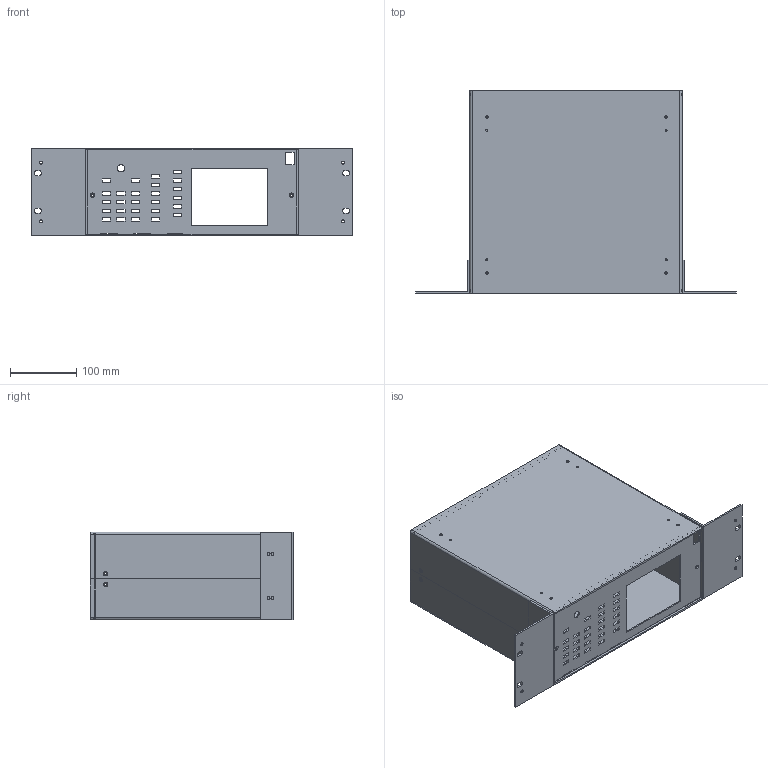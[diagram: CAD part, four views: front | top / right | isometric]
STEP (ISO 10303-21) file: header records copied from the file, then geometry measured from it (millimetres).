
FILE_DESCRIPTION(/* description */ (''),/* implementation_level */ '2;1');
FILE_NAME(/* name */ 'C:\Users\rs\Desktop\MLMG450-zusammenbau.stp',/* time_stamp */ '2019-01-25T12:14:12+01:00',/* author */ ('rs'),/* organization */ (''),/* preprocessor_version */ 'ST-DEVELOPER v15.6',/* originating_system */ 'Autodesk Inventor 2015',/* authorisation */ '');
FILE_SCHEMA (('CONFIG_CONTROL_DESIGN'));
Length unit declared in the file: millimetre
Products named in the file (11): EINPM4; Product; L45do_b; L45du_b; L45fpD; BW19ZOLL; T45BW19; MLMG450-zusammenbau
Assembly tree (13 placements, depth 3):
  MLMG450-zusammenbau
    L45do_b
      EINPM4  x2
      Product
    L45du_b
      EINPM4  x2
      Product
    L45fpD
    T45BW19  x2
      BW19ZOLL
      Product
Bounding box: 483 x 306.7 x 132.5 mm (x, y, z)
Volume: 833096.6 mm3; surface area: 694238.6 mm2
Topology: 26 solids, 26 shells, 440 faces, 1105 edges, 732 vertices
Faces by surface type: plane 297, cylinder 129, cone 14
Full cylindrical faces by diameter (mm): 3 x9, 3.2 x17, 3.3 x4, 3.4 x2, 4 x4, 4.2 x12, 4.5 x4, 5.38 x4, 5.4 x4, 7.9 x4, 11 x1
Entity records: 12124 total; most frequent: CARTESIAN_POINT 2010, DIRECTION 1984, ORIENTED_EDGE 1876, EDGE_CURVE 938, LINE 720, VECTOR 720, VERTEX_POINT 658, AXIS2_PLACEMENT_3D 632
